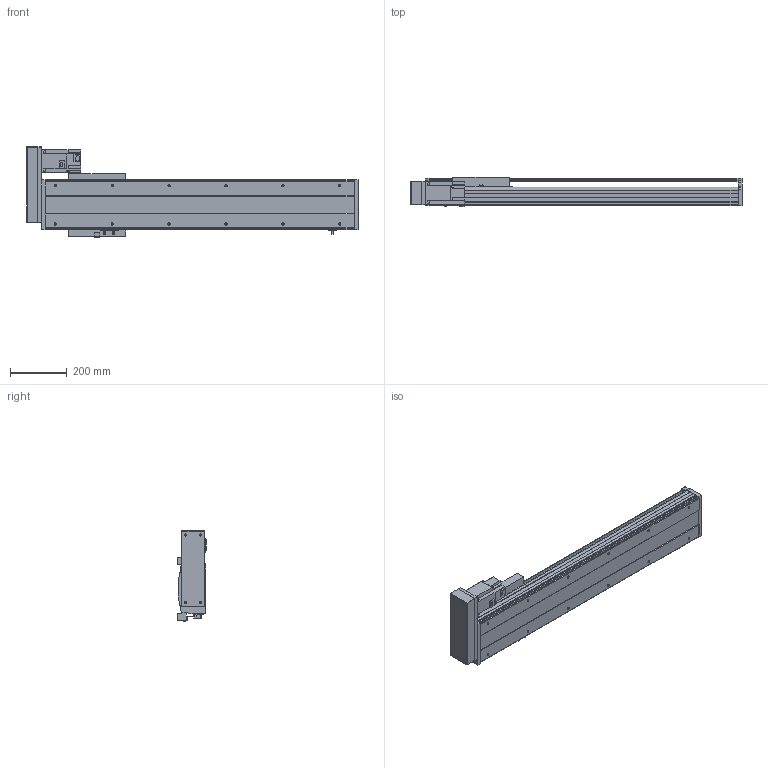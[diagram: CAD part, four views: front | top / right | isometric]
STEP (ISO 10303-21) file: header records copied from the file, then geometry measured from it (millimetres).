
FILE_DESCRIPTION( ( 'STEP AP214' ), '1' );
FILE_NAME( 'x:/temp/worker_27/temp/exporttempdir_6708_445_05f8f/format_0/PSS200-L10-S750-BL-T75-C1-N(0).stp', '2022-06-06T02:50:13', ( 'License CC BY-ND 4.0' ), ( 'CADENAS' ), ' ', 'PARTsolutions', ' ' );
FILE_SCHEMA( ( 'AUTOMOTIVE_DESIGN { 1 0 10303 214 1 1 1 1 }' ) );
Length unit declared in the file: millimetre
Products named in the file (8): PSS200-L10-S750-BL-T75-C1-N(0); _PSS200-S750-BL-C1-N_body; _PSS200-N_Q; _PSS200-BL-C1-N_sl; _PSS200-N_sensor; _PSS200BL-N_h; _T75-p1; _PSS200-S750-BL-N_S
Assembly tree (9 placements, depth 2):
  PSS200-L10-S750-BL-T75-C1-N(0)
    _PSS200-S750-BL-C1-N_body
    _PSS200-N_Q
    _PSS200-BL-C1-N_sl
    _PSS200-N_sensor  x3
    _PSS200BL-N_h
    _T75-p1
    _PSS200-S750-BL-N_S
Bounding box: 1166.85 x 105.3 x 317.86 mm (x, y, z)
Volume: 8306779.2 mm3; surface area: 1880719.1 mm2
Topology: 9 solids, 9 shells, 604 faces, 1609 edges, 1062 vertices
Faces by surface type: plane 466, cylinder 114, cone 20, sphere 4
Full cylindrical faces by diameter (mm): 4 x2, 4.5 x4, 6 x7, 6.647 x16, 7.4 x4, 8 x8, 10 x6, 25 x1, 40 x1, 67 x1
Entity records: 21070 total; most frequent: CARTESIAN_POINT 2875, DIRECTION 2772, ORIENTED_EDGE 2738, EDGE_CURVE 1369, LINE 1090, VECTOR 1090, VERTEX_POINT 944, AXIS2_PLACEMENT_3D 841
